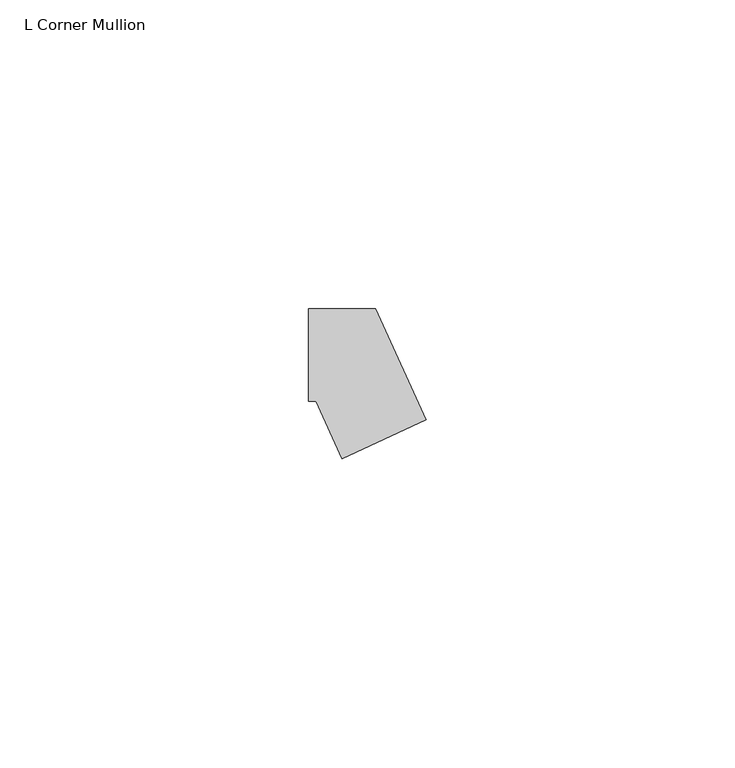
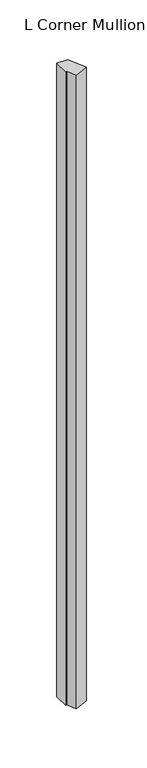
"""IFC4 building model written with IfcOpenShell, lengths in millimetres: member geometry, L Corner Mullion : ARQ_HERR_15X6mm."""

import ifcopenshell
import ifcopenshell.guid

model = None  # the IFC model being written
_history = None  # IfcOwnerHistory: only IFC2X3 demands one
_inside = {}  # id of a spatial element -> (the spatial element, [elements in it])
_under = {}  # id of a project, library or spatial element -> (it, [spatial elements below it])
_declared = {}  # id of a project -> (the project, [libraries it declares])
_typed = {}  # id of a type object -> (the type object, [elements of that type])
_made_of = {}  # id of a material, layer set ... -> (it, [elements and type objects made of it])


def new_model(schema):
    """Start an empty IFC model of exactly this schema.

    Asked for "IFC4X3", IfcOpenShell would pick the latest addendum, in which some entities
    have other attributes; the version numbers below select the first issue.
    IFC2X3 requires an IfcOwnerHistory on every rooted entity: one is made here for all.
    """
    global model, _history
    if schema == "IFC4X3":
        model = ifcopenshell.file(schema_version=(4, 3, 0, 0))
    else:
        model = ifcopenshell.file(schema=schema)
    _inside.clear()
    _under.clear()
    _declared.clear()
    _typed.clear()
    _made_of.clear()
    _history = None
    if model.schema == "IFC2X3":
        org = make("IfcOrganization", Name="unknown")
        user = make(
            "IfcPersonAndOrganization",
            ThePerson=make("IfcPerson", FamilyName="unknown"),
            TheOrganization=org,
        )
        app = make(
            "IfcApplication",
            ApplicationDeveloper=org,
            Version="unknown",
            ApplicationFullName="unknown",
            ApplicationIdentifier="unknown",
        )
        _history = make(
            "IfcOwnerHistory",
            OwningUser=user,
            OwningApplication=app,
            ChangeAction="ADDED",
            CreationDate=0,
        )
    return model


def make(cls, **values):
    """One entity of the class cls with the attributes given. An attribute that is None is left unset."""
    return model.create_entity(
        cls, **{name: value for name, value in values.items() if value is not None}
    )


def rooted(cls, **values):
    """An entity with a GlobalId (a new one), such as an element, a storey or a relation."""
    return make(cls, GlobalId=ifcopenshell.guid.new(), OwnerHistory=_history, **values)


def si_unit(unit_type, name, prefix=None):
    """IfcSIUnit, for example si_unit("LENGTHUNIT", "METRE", prefix="MILLI")."""
    return make("IfcSIUnit", UnitType=unit_type, Prefix=prefix, Name=name)


def assignment(units):
    """IfcUnitAssignment: the units of a project."""
    return None if units is None else make("IfcUnitAssignment", Units=units)


def point(xyz):
    """IfcCartesianPoint."""
    return None if xyz is None else make("IfcCartesianPoint", Coordinates=xyz)


def direction(xyz):
    """IfcDirection."""
    return None if xyz is None else make("IfcDirection", DirectionRatios=xyz)


def frame(location, z_axis=None, x_axis=None):
    """IfcAxis2Placement3D, a coordinate frame: its origin and axes. An axis left out is left unset."""
    return make(
        "IfcAxis2Placement3D",
        Location=point(location),
        Axis=direction(z_axis),
        RefDirection=direction(x_axis),
    )


def origin():
    """The frame at (0, 0, 0) with its axes left unset."""
    return frame((0.0, 0.0, 0.0))


def place(relative_to, where):
    """IfcLocalPlacement: puts the frame where relative to a parent placement (None: the world)."""
    return make(
        "IfcLocalPlacement", PlacementRelTo=relative_to, RelativePlacement=where
    )


def context(
    kind, dimensions, precision=None, world=None, true_north=None, identifier=None
):
    """IfcGeometricRepresentationContext, for example the 3D "Model" context."""
    return make(
        "IfcGeometricRepresentationContext",
        ContextIdentifier=identifier,
        ContextType=kind,
        CoordinateSpaceDimension=dimensions,
        Precision=precision,
        WorldCoordinateSystem=world,
        TrueNorth=true_north,
    )


def project(units=None, contexts=None):
    """IfcProject with its units and contexts."""
    return rooted(
        "IfcProject",
        Name="project",
        RepresentationContexts=contexts,
        UnitsInContext=assignment(units),
    )


def spatial(cls, under=None, at=None, **own):
    """A site, building, storey or space (cls), placed at a placement, below another one or the project."""
    s = rooted(cls, ObjectPlacement=at, **own)
    if under is not None:
        _under.setdefault(under.id(), (under, []))[1].append(s)
    return s


def polyline(points):
    """IfcPolyline through the points."""
    return make("IfcPolyline", Points=[point(p) for p in points])


def outline(outer, holes=None, kind="AREA"):
    """IfcArbitraryClosedProfileDef: a profile drawn as a closed curve; with holes, ...WithVoids."""
    if holes is None:
        return make("IfcArbitraryClosedProfileDef", ProfileType=kind, OuterCurve=outer)
    return make(
        "IfcArbitraryProfileDefWithVoids",
        ProfileType=kind,
        OuterCurve=outer,
        InnerCurves=holes,
    )


def extrude(swept, where, along, depth):
    """IfcExtrudedAreaSolid: the profile swept, set in the frame where, extruded along a direction by depth."""
    return make(
        "IfcExtrudedAreaSolid",
        SweptArea=swept,
        Position=where,
        ExtrudedDirection=direction(along),
        Depth=depth,
    )


def shape(context_of_items, identifier, shape_type, items):
    """IfcShapeRepresentation: the items that make up one representation, for example the "Body"."""
    return make(
        "IfcShapeRepresentation",
        ContextOfItems=context_of_items,
        RepresentationIdentifier=identifier,
        RepresentationType=shape_type,
        Items=items,
    )


def source(mapping_origin, context_of_items, identifier, shape_type, items):
    """IfcRepresentationMap: a shape defined once, which mapped items show again and again."""
    return make(
        "IfcRepresentationMap",
        MappingOrigin=mapping_origin,
        MappedRepresentation=shape(context_of_items, identifier, shape_type, items),
    )


def transform(
    local_origin,
    x_axis=None,
    y_axis=None,
    z_axis=None,
    scale=None,
    scale2=None,
    scale3=None,
    uniform=True,
):
    """IfcCartesianTransformationOperator3D, or its non-uniform kind. x_axis, y_axis, z_axis: its Axis1, 2, 3."""
    if uniform:
        return make(
            "IfcCartesianTransformationOperator3D",
            Axis1=direction(x_axis),
            Axis2=direction(y_axis),
            LocalOrigin=point(local_origin),
            Scale=scale,
            Axis3=direction(z_axis),
        )
    return make(
        "IfcCartesianTransformationOperator3DnonUniform",
        Axis1=direction(x_axis),
        Axis2=direction(y_axis),
        LocalOrigin=point(local_origin),
        Scale=scale,
        Axis3=direction(z_axis),
        Scale2=scale2,
        Scale3=scale3,
    )


def mapped(mapping_source, mapping_target):
    """IfcMappedItem: shows the shape of a source again, moved by a transform."""
    return make(
        "IfcMappedItem", MappingSource=mapping_source, MappingTarget=mapping_target
    )


def made_of(thing, what):
    """Note that an element or type object is made of a material, layer set ...; save() writes the relation."""
    if what is not None:
        _made_of.setdefault(what.id(), (what, []))[1].append(thing)
    return thing


def element(
    cls,
    number,
    at=None,
    inside=None,
    cuts=None,
    type_object=None,
    material=None,
    context=None,
    identifier="Body",
    shape_type=None,
    held_by="IfcProductDefinitionShape",
    body=None,
    shapes=None,
    **own,
):
    """One element of the class cls, such as IfcWall. Its Tag is "e" and its number.

    at: its placement. inside: the storey or other place that contains it. cuts: it is an
    opening in that element (IfcRelVoidsElement). A single representation is given by context,
    identifier, shape_type and body (its items); several are given by shapes. held_by: the class
    of the entity that holds the representations. save() writes the other relations.
    """
    e = rooted(cls, Tag="e%d" % number, ObjectPlacement=at, **own)
    if body is not None:
        shapes = [shape(context, identifier, shape_type, body)]
    if shapes is not None:
        e.Representation = make(held_by, Representations=shapes)
    if inside is not None:
        _inside.setdefault(inside.id(), (inside, []))[1].append(e)
    if cuts is not None:
        rooted(
            "IfcRelVoidsElement", RelatingBuildingElement=cuts, RelatedOpeningElement=e
        )
    if type_object is not None:
        _typed.setdefault(type_object.id(), (type_object, []))[1].append(e)
    return made_of(e, material)


def aggregate(whole, parts):
    """IfcRelAggregates: a whole, such as a stair, and the parts it consists of."""
    return rooted("IfcRelAggregates", RelatingObject=whole, RelatedObjects=parts)


def save(model, path):
    """Write the relations noted so far, then the file.

    IfcRelAggregates (storeys below a building ...), IfcRelContainedInSpatialStructure (elements
    in a storey), IfcRelDefinesByType, IfcRelAssociatesMaterial and IfcRelDeclares: one each for
    every whole, place, type object, material and project.
    """
    for whole, parts in _under.values():
        aggregate(whole, parts)
    for where, things in _inside.values():
        rooted(
            "IfcRelContainedInSpatialStructure",
            RelatedElements=things,
            RelatingStructure=where,
        )
    for kind, things in _typed.values():
        rooted("IfcRelDefinesByType", RelatedObjects=things, RelatingType=kind)
    for what, things in _made_of.values():
        rooted("IfcRelAssociatesMaterial", RelatedObjects=things, RelatingMaterial=what)
    for by, libraries in _declared.values():
        rooted("IfcRelDeclares", RelatingContext=by, RelatedDefinitions=libraries)
    model.write(path)


def l_corner_mullion_d27054f3(model_context):
    return source(origin(), model_context, "Body", "SweptSolid", [
        extrude(outline(polyline([(-0.5775282, -16.7605627), (-4.8156946, -7.5), (-6.0, -7.5), (-6.0, 7.5), (4.8156946, 7.5), (13.0619332, -10.5183601), (-0.5775282, -16.7605627)])), frame((0.0, 0.0, -679.376007), z_axis=(0.0, 0.0, 1.0), x_axis=(1.0, 0.0, 0.0)), (0.0, 0.0, 1.0), 679.376007),
    ])


if __name__ == "__main__":
    model = new_model("IFC4")
    model_context = context("Model", 3, world=origin())
    ifc_project = project(units=[si_unit("LENGTHUNIT", "METRE", prefix="MILLI")], contexts=[model_context])
    site = spatial("IfcSite", under=ifc_project)
    building = spatial("IfcBuilding", under=site)
    placement = place(None, origin())
    l_corner_mullion_shape = l_corner_mullion_d27054f3(model_context)
    element("IfcMember", 1, ObjectType="L Corner Mullion : ARQ_HERR_15X6mm", at=placement, inside=building, context=model_context, shape_type="MappedRepresentation", body=[
        mapped(l_corner_mullion_shape, transform((0.0, 0.0, 0.0), x_axis=(1.0, 0.0, 0.0), y_axis=(0.0, 1.0, 0.0), z_axis=(0.0, 0.0, 1.0))),
    ])
    save(model, "model.ifc")
